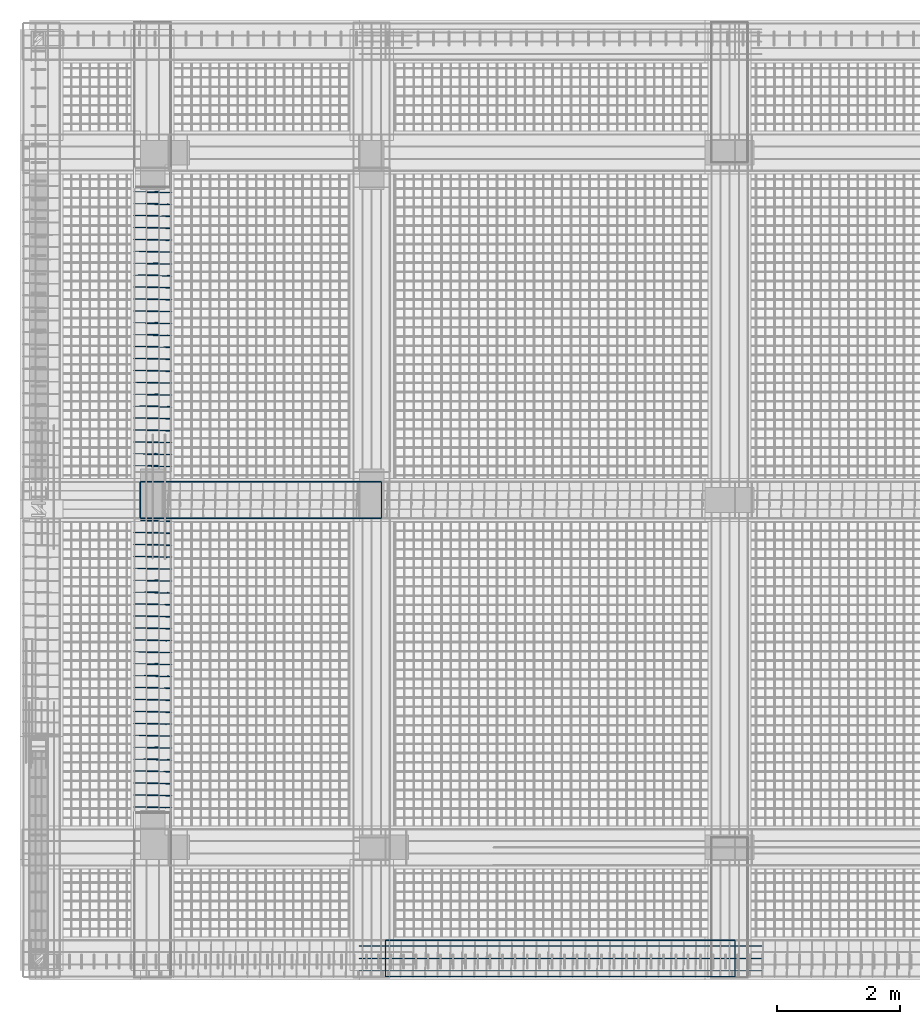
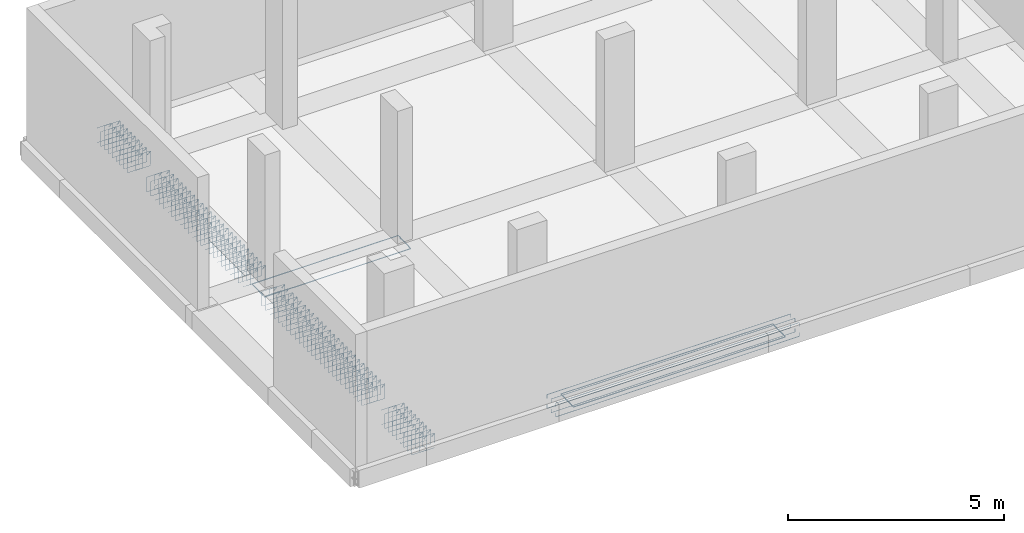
# One storey, part 4 of 9: 4 reinforcing bars.
"""IFC4 building model written with IfcOpenShell, lengths in metres."""

from ifc_helpers import new_model, entity, si_unit, origin_with_axes, place, context, project, spatial, source, transform, mapped, element, save


model = new_model("IFC4")

# Units and contexts
model_context = context("Model", 3, precision=1e-05, world=origin_with_axes())
ifc_project = project(units=[si_unit("LENGTHUNIT", "METRE"), si_unit("AREAUNIT", "SQUARE_METRE"), si_unit("VOLUMEUNIT", "CUBIC_METRE"), si_unit("MASSUNIT", "GRAM", prefix="KILO"), si_unit("TIMEUNIT", "SECOND"), si_unit("PLANEANGLEUNIT", "RADIAN"), si_unit("SOLIDANGLEUNIT", "STERADIAN"), si_unit("THERMODYNAMICTEMPERATUREUNIT", "DEGREE_CELSIUS")], contexts=[model_context])

# Site, building, storey
placement_1 = place(None, origin_with_axes())
site = spatial("IfcSite", under=ifc_project, at=placement_1, Name="Italia", CompositionType="ELEMENT")
building = spatial("IfcBuilding", under=site, at=placement_1, Name="Palazzina", CompositionType="ELEMENT")
storey = spatial("IfcBuildingStorey", under=building, at=placement_1, Name="Storey 0", CompositionType="ELEMENT", Elevation=0.0)

# Reinforcing bars
shared_shape_1 = source(origin_with_axes(), model_context, "Body", "AdvancedSweptSolid", [
    entity("IfcSweptDiskSolid", entity("IfcIndexedPolyCurve", entity("IfcCartesianPointList3D", [[3.54918, -1.6, -0.344], [3.54918, -1.6, -0.434], [3.54994, -1.6, -0.437827], [3.55211, -1.6, -0.441071], [3.55536, -1.6, -0.443239], [3.55918, -1.6, -0.444], [3.975, -1.6, -0.444], [9.64091, -1.6, -0.444], [10.0567, -1.6, -0.444], [10.0606, -1.6, -0.443239], [10.0638, -1.6, -0.441071], [10.066, -1.6, -0.437827], [10.0667, -1.6, -0.434], [10.0667, -1.6, -0.344]]), [entity("IfcLineIndex", [1, 2]), entity("IfcLineIndex", [2, 3]), entity("IfcLineIndex", [3, 4]), entity("IfcLineIndex", [4, 5]), entity("IfcLineIndex", [5, 6]), entity("IfcLineIndex", [6, 7]), entity("IfcLineIndex", [7, 8]), entity("IfcLineIndex", [8, 9]), entity("IfcLineIndex", [9, 10]), entity("IfcLineIndex", [10, 11]), entity("IfcLineIndex", [11, 12]), entity("IfcLineIndex", [12, 13]), entity("IfcLineIndex", [13, 14])], False), 0.008),
])
placement_2 = place(placement_1, origin_with_axes())
reinforcing_bar_1_placement = place(placement_2, origin_with_axes())
element("IfcReinforcingBar", 1, at=reinforcing_bar_1_placement, inside=storey, BarLength=6.70876, CrossSectionArea=0.00020106, NominalDiameter=0.016, context=model_context, shape_type="MappedRepresentation", body=[
    mapped(shared_shape_1, transform((0.0, -3.0, -0.5), x_axis=(1.0, 0.0, 0.0), y_axis=(0.0, -1.0, 0.0), z_axis=(0.0, 0.0, -1.0), scale=1.0)),
    mapped(shared_shape_1, transform((0.0, -3.2, -0.5), x_axis=(1.0, 0.0, 0.0), y_axis=(0.0, -1.0, 0.0), z_axis=(0.0, 0.0, -1.0), scale=1.0)),
    mapped(shared_shape_1, transform((0.0, -3.4, -0.5), x_axis=(1.0, 0.0, 0.0), y_axis=(0.0, -1.0, 0.0), z_axis=(0.0, 0.0, -1.0), scale=1.0)),
    mapped(shared_shape_1, transform((0.0, -3.2, -0.5), x_axis=(1.0, 0.0, 0.0), y_axis=(0.0, -1.0, 0.0), z_axis=(0.0, 0.0, -1.0), scale=1.0)),
    mapped(shared_shape_1, transform((0.0, 0.2, 0.0), x_axis=(1.0, 0.0, 0.0), y_axis=(0.0, 1.0, 0.0), z_axis=(0.0, 0.0, 1.0), scale=1.0)),
    mapped(shared_shape_1, transform((0.0, 0.0, 0.0), x_axis=(1.0, 0.0, 0.0), y_axis=(0.0, 1.0, 0.0), z_axis=(0.0, 0.0, 1.0), scale=1.0)),
    mapped(shared_shape_1, transform((0.0, -0.2, 0.0), x_axis=(1.0, 0.0, 0.0), y_axis=(0.0, 1.0, 0.0), z_axis=(0.0, 0.0, 1.0), scale=1.0)),
    mapped(shared_shape_1, transform((0.0, 0.0, 0.0), x_axis=(1.0, 0.0, 0.0), y_axis=(0.0, 1.0, 0.0), z_axis=(0.0, 0.0, 1.0), scale=1.0)),
])
shared_shape_2 = source(origin_with_axes(), model_context, "Body", "AdvancedSweptSolid", [
    entity("IfcSweptDiskSolid", entity("IfcIndexedPolyCurve", entity("IfcCartesianPointList3D", [[3.975, -1.806, -0.244], [3.975, -1.316, -0.244], [3.97576, -1.31217, -0.244], [3.97793, -1.30893, -0.244], [3.98117, -1.30676, -0.244], [3.985, -1.306, -0.244], [9.63091, -1.306, -0.244], [9.63474, -1.30676, -0.244], [9.63798, -1.30893, -0.244], [9.64015, -1.31217, -0.244], [9.64091, -1.316, -0.244], [9.64091, -1.806, -0.244]]), [entity("IfcLineIndex", [1, 2]), entity("IfcLineIndex", [2, 3]), entity("IfcLineIndex", [3, 4]), entity("IfcLineIndex", [4, 5]), entity("IfcLineIndex", [5, 6]), entity("IfcLineIndex", [6, 7]), entity("IfcLineIndex", [7, 8]), entity("IfcLineIndex", [8, 9]), entity("IfcLineIndex", [9, 10]), entity("IfcLineIndex", [10, 11]), entity("IfcLineIndex", [11, 12])], False), 0.006),
])
reinforcing_bar_2_placement = place(placement_2, origin_with_axes())
element("IfcReinforcingBar", 2, at=reinforcing_bar_2_placement, inside=storey, BarLength=6.65712, CrossSectionArea=0.0001131, NominalDiameter=0.012, context=model_context, shape_type="MappedRepresentation", body=[
    mapped(shared_shape_2, transform((0.0, -3.2, -0.5), x_axis=(1.0, 0.0, 0.0), y_axis=(0.0, -1.0, 0.0), z_axis=(0.0, 0.0, -1.0), scale=1.0)),
    mapped(shared_shape_2, transform((0.0, 0.0, 0.0), x_axis=(1.0, 0.0, 0.0), y_axis=(0.0, 1.0, 0.0), z_axis=(0.0, 0.0, 1.0), scale=1.0)),
])
shared_shape_3 = source(origin_with_axes(), model_context, "Body", "AdvancedSweptSolid", [
    entity("IfcSweptDiskSolid", entity("IfcIndexedPolyCurve", entity("IfcCartesianPointList3D", [[0.0, 5.624, -0.244], [0.0, 6.114, -0.244], [0.000760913, 6.11783, -0.244], [0.00292873, 6.12107, -0.244], [0.0061729, 6.12324, -0.244], [0.00999975, 6.124, -0.244], [3.9, 6.124, -0.244], [3.90383, 6.12324, -0.244], [3.90707, 6.12107, -0.244], [3.90924, 6.11783, -0.244], [3.91, 6.114, -0.244], [3.91, 5.624, -0.244]]), [entity("IfcLineIndex", [1, 2]), entity("IfcLineIndex", [2, 3]), entity("IfcLineIndex", [3, 4]), entity("IfcLineIndex", [4, 5]), entity("IfcLineIndex", [5, 6]), entity("IfcLineIndex", [6, 7]), entity("IfcLineIndex", [7, 8]), entity("IfcLineIndex", [8, 9]), entity("IfcLineIndex", [9, 10]), entity("IfcLineIndex", [10, 11]), entity("IfcLineIndex", [11, 12])], False), 0.006),
])
reinforcing_bar_3_placement = place(placement_2, origin_with_axes())
element("IfcReinforcingBar", 3, at=reinforcing_bar_3_placement, inside=storey, BarLength=4.90121, CrossSectionArea=0.0001131, NominalDiameter=0.012, context=model_context, shape_type="MappedRepresentation", body=[
    mapped(shared_shape_3, transform((0.0, 11.66, -0.5), x_axis=(1.0, 0.0, 0.0), y_axis=(0.0, -1.0, 0.0), z_axis=(0.0, 0.0, -1.0), scale=1.0)),
    mapped(shared_shape_3, transform((0.0, 0.0, 0.0), x_axis=(1.0, 0.0, 0.0), y_axis=(0.0, 1.0, 0.0), z_axis=(0.0, 0.0, 1.0), scale=1.0)),
])
shared_shape_4 = source(origin_with_axes(), model_context, "Body", "AdvancedSweptSolid", [
    entity("IfcSweptDiskSolid", entity("IfcIndexedPolyCurve", entity("IfcCartesianPointList3D", [[0.434289, -1.45, -0.138211], [0.502071, -1.45058, -0.0704289], [0.505, -1.45063, -0.0633579], [0.505, -1.45068, -0.055], [0.504239, -1.4507, -0.0511732], [0.502071, -1.45073, -0.0479289], [0.498827, -1.45075, -0.0457612], [0.495, -1.45077, -0.045], [0.108333, -1.45312, -0.045], [0.104506, -1.45314, -0.0457612], [0.101262, -1.45317, -0.0479289], [0.0990945, -1.45319, -0.0511732], [0.0983333, -1.45321, -0.055], [0.0983333, -1.45558, -0.445], [0.0990945, -1.4556, -0.448827], [0.101262, -1.45563, -0.452071], [0.104506, -1.45565, -0.454239], [0.108333, -1.45568, -0.455], [0.495, -1.45802, -0.455], [0.498827, -1.45805, -0.454239], [0.502071, -1.45807, -0.452071], [0.504239, -1.45809, -0.448827], [0.505, -1.45812, -0.445], [0.505, -1.46048, -0.055], [0.504239, -1.46051, -0.0511732], [0.502071, -1.46053, -0.0479289], [0.498827, -1.46055, -0.0457612], [0.495, -1.46058, -0.045], [0.486642, -1.46063, -0.045], [0.479571, -1.46067, -0.0479289], [0.411789, -1.46126, -0.115711]]), [entity("IfcLineIndex", [1, 2]), entity("IfcLineIndex", [2, 3]), entity("IfcLineIndex", [3, 4]), entity("IfcLineIndex", [4, 5]), entity("IfcLineIndex", [5, 6]), entity("IfcLineIndex", [6, 7]), entity("IfcLineIndex", [7, 8]), entity("IfcLineIndex", [8, 9]), entity("IfcLineIndex", [9, 10]), entity("IfcLineIndex", [10, 11]), entity("IfcLineIndex", [11, 12]), entity("IfcLineIndex", [12, 13]), entity("IfcLineIndex", [13, 14]), entity("IfcLineIndex", [14, 15]), entity("IfcLineIndex", [15, 16]), entity("IfcLineIndex", [16, 17]), entity("IfcLineIndex", [17, 18]), entity("IfcLineIndex", [18, 19]), entity("IfcLineIndex", [19, 20]), entity("IfcLineIndex", [20, 21]), entity("IfcLineIndex", [21, 22]), entity("IfcLineIndex", [22, 23]), entity("IfcLineIndex", [23, 24]), entity("IfcLineIndex", [24, 25]), entity("IfcLineIndex", [25, 26]), entity("IfcLineIndex", [26, 27]), entity("IfcLineIndex", [27, 28]), entity("IfcLineIndex", [28, 29]), entity("IfcLineIndex", [29, 30]), entity("IfcLineIndex", [30, 31])], False), 0.005),
])
reinforcing_bar_4_placement = place(placement_2, origin_with_axes())
element("IfcReinforcingBar", 4, at=reinforcing_bar_4_placement, inside=storey, BarLength=1.85514, CrossSectionArea=7.854e-05, NominalDiameter=0.01, context=model_context, shape_type="MappedRepresentation", body=[
    mapped(shared_shape_4, transform((-0.203245, 8.61221, -8.51452e-05), x_axis=(1.0, -6.05866e-05, 0.0), y_axis=(6.05732e-05, 1.0, -5.8811e-05), z_axis=(0.0, 5.8811e-05, 1.0), scale=1.0)),
    mapped(shared_shape_4, transform((-0.203245, 8.03308, -8.51452e-05), x_axis=(1.0, -6.05866e-05, 0.0), y_axis=(6.05732e-05, 1.0, -5.8811e-05), z_axis=(0.0, 5.8811e-05, 1.0), scale=1.0)),
    mapped(shared_shape_4, transform((-0.203245, 8.99829, -8.51452e-05), x_axis=(1.0, -6.05866e-05, 0.0), y_axis=(6.05732e-05, 1.0, -5.8811e-05), z_axis=(0.0, 5.8811e-05, 1.0), scale=1.0)),
    mapped(shared_shape_4, transform((-0.203245, 9.19134, -8.51452e-05), x_axis=(1.0, -6.05866e-05, 0.0), y_axis=(6.05732e-05, 1.0, -5.8811e-05), z_axis=(0.0, 5.8811e-05, 1.0), scale=1.0)),
    mapped(shared_shape_4, transform((-0.203245, 8.80525, -8.51452e-05), x_axis=(1.0, -6.05866e-05, 0.0), y_axis=(6.05732e-05, 1.0, -5.8811e-05), z_axis=(0.0, 5.8811e-05, 1.0), scale=1.0)),
    mapped(shared_shape_4, transform((-0.203245, 8.41916, -8.51452e-05), x_axis=(1.0, -6.05866e-05, 0.0), y_axis=(6.05732e-05, 1.0, -5.8811e-05), z_axis=(0.0, 5.8811e-05, 1.0), scale=1.0)),
    mapped(shared_shape_4, transform((-0.203245, 6.95003, -8.51452e-05), x_axis=(1.0, -6.05866e-05, 0.0), y_axis=(6.05732e-05, 1.0, -5.8811e-05), z_axis=(0.0, 5.8811e-05, 1.0), scale=1.0)),
    mapped(shared_shape_4, transform((-0.203413, 14.2275, 8.13007e-05), x_axis=(1.0, 5.45182e-05, 0.0), y_axis=(-5.45362e-05, 1.0, 5.62894e-05), z_axis=(0.0, -5.62895e-05, 1.0), scale=1.0)),
    mapped(shared_shape_4, transform((-0.203245, 8.22612, -8.51452e-05), x_axis=(1.0, -6.05866e-05, 0.0), y_axis=(6.05732e-05, 1.0, -5.8811e-05), z_axis=(0.0, 5.8811e-05, 1.0), scale=1.0)),
    mapped(shared_shape_4, transform((-0.203413, 10.3495, 8.13007e-05), x_axis=(1.0, 5.45182e-05, 0.0), y_axis=(-5.45362e-05, 1.0, 5.62894e-05), z_axis=(0.0, -5.62895e-05, 1.0), scale=1.0)),
    mapped(shared_shape_4, transform((-0.203413, 13.3462, 8.13007e-05), x_axis=(1.0, 5.45182e-05, 0.0), y_axis=(-5.45362e-05, 1.0, 5.62894e-05), z_axis=(0.0, -5.62895e-05, 1.0), scale=1.0)),
    mapped(shared_shape_4, transform((-0.203413, 14.4037, 8.13007e-05), x_axis=(1.0, 5.45182e-05, 0.0), y_axis=(-5.45362e-05, 1.0, 5.62894e-05), z_axis=(0.0, -5.62895e-05, 1.0), scale=1.0)),
    mapped(shared_shape_4, transform((-0.203413, 14.0512, 8.13007e-05), x_axis=(1.0, 5.45182e-05, 0.0), y_axis=(-5.45362e-05, 1.0, 5.62894e-05), z_axis=(0.0, -5.62895e-05, 1.0), scale=1.0)),
    mapped(shared_shape_4, transform((-0.203333, 0.18625, 0.0), x_axis=(1.0, 0.0, 0.0), y_axis=(0.0, 1.0, 0.0), z_axis=(0.0, 0.0, 1.0), scale=1.0)),
    mapped(shared_shape_4, transform((-0.203413, 10.1565, 8.13007e-05), x_axis=(1.0, 5.45182e-05, 0.0), y_axis=(-5.45362e-05, 1.0, 5.62894e-05), z_axis=(0.0, -5.62895e-05, 1.0), scale=1.0)),
    mapped(shared_shape_4, transform((-0.203413, 9.57736, 8.13007e-05), x_axis=(1.0, 5.45182e-05, 0.0), y_axis=(-5.45362e-05, 1.0, 5.62894e-05), z_axis=(0.0, -5.62895e-05, 1.0), scale=1.0)),
    mapped(shared_shape_4, transform((-0.203245, 7.84003, -8.51452e-05), x_axis=(1.0, -6.05866e-05, 0.0), y_axis=(6.05732e-05, 1.0, -5.8811e-05), z_axis=(0.0, 5.8811e-05, 1.0), scale=1.0)),
    mapped(shared_shape_4, transform((-0.203413, 10.9287, 8.13007e-05), x_axis=(1.0, 5.45182e-05, 0.0), y_axis=(-5.45362e-05, 1.0, 5.62894e-05), z_axis=(0.0, -5.62895e-05, 1.0), scale=1.0)),
    mapped(shared_shape_4, transform((-0.203413, 10.7356, 8.13007e-05), x_axis=(1.0, 5.45182e-05, 0.0), y_axis=(-5.45362e-05, 1.0, 5.62894e-05), z_axis=(0.0, -5.62895e-05, 1.0), scale=1.0)),
    mapped(shared_shape_4, transform((-0.203413, 10.5426, 8.13007e-05), x_axis=(1.0, 5.45182e-05, 0.0), y_axis=(-5.45362e-05, 1.0, 5.62894e-05), z_axis=(0.0, -5.62895e-05, 1.0), scale=1.0)),
    mapped(shared_shape_4, transform((-0.203413, 13.875, 8.13007e-05), x_axis=(1.0, 5.45182e-05, 0.0), y_axis=(-5.45362e-05, 1.0, 5.62894e-05), z_axis=(0.0, -5.62895e-05, 1.0), scale=1.0)),
    mapped(shared_shape_4, transform((-0.203413, 13.6987, 8.13007e-05), x_axis=(1.0, 5.45182e-05, 0.0), y_axis=(-5.45362e-05, 1.0, 5.62894e-05), z_axis=(0.0, -5.62895e-05, 1.0), scale=1.0)),
    mapped(shared_shape_4, transform((-0.203413, 9.96345, 8.13007e-05), x_axis=(1.0, 5.45182e-05, 0.0), y_axis=(-5.45362e-05, 1.0, 5.62894e-05), z_axis=(0.0, -5.62895e-05, 1.0), scale=1.0)),
    mapped(shared_shape_4, transform((-0.203413, 11.3148, 8.13007e-05), x_axis=(1.0, 5.45182e-05, 0.0), y_axis=(-5.45362e-05, 1.0, 5.62894e-05), z_axis=(0.0, -5.62895e-05, 1.0), scale=1.0)),
    mapped(shared_shape_4, transform((-0.203245, 9.38438, -8.51452e-05), x_axis=(1.0, -6.05866e-05, 0.0), y_axis=(6.05732e-05, 1.0, -5.8811e-05), z_axis=(0.0, 5.8811e-05, 1.0), scale=1.0)),
    mapped(shared_shape_4, transform((-0.203413, 13.5225, 8.13007e-05), x_axis=(1.0, 5.45182e-05, 0.0), y_axis=(-5.45362e-05, 1.0, 5.62894e-05), z_axis=(0.0, -5.62895e-05, 1.0), scale=1.0)),
    mapped(shared_shape_4, transform((-0.203329, 4.43667, 0.0), x_axis=(1.0, 0.0, 0.0), y_axis=(0.0, 1.0, 0.0), z_axis=(0.0, 0.0, 1.0), scale=1.0)),
    mapped(shared_shape_4, transform((-0.203329, 4.63, 0.0), x_axis=(1.0, 0.0, 0.0), y_axis=(0.0, 1.0, 0.0), z_axis=(0.0, 0.0, 1.0), scale=1.0)),
    mapped(shared_shape_4, transform((-0.203413, 9.7704, 8.13007e-05), x_axis=(1.0, 5.45182e-05, 0.0), y_axis=(-5.45362e-05, 1.0, 5.62894e-05), z_axis=(0.0, -5.62895e-05, 1.0), scale=1.0)),
    mapped(shared_shape_4, transform((-0.203329, 4.24334, 0.0), x_axis=(1.0, 0.0, 0.0), y_axis=(0.0, 1.0, 0.0), z_axis=(0.0, 0.0, 1.0), scale=1.0)),
    mapped(shared_shape_4, transform((-0.203413, 11.1217, 8.13007e-05), x_axis=(1.0, 5.45182e-05, 0.0), y_axis=(-5.45362e-05, 1.0, 5.62894e-05), z_axis=(0.0, -5.62895e-05, 1.0), scale=1.0)),
    mapped(shared_shape_4, transform((-0.203333, 0.3625, 0.0), x_axis=(1.0, 0.0, 0.0), y_axis=(0.0, 1.0, 0.0), z_axis=(0.0, 0.0, 1.0), scale=1.0)),
    mapped(shared_shape_4, transform((-0.203333, 0.00999999, 0.0), x_axis=(1.0, 0.0, 0.0), y_axis=(0.0, 1.0, 0.0), z_axis=(0.0, 0.0, 1.0), scale=1.0)),
    mapped(shared_shape_4, transform((0.0, 0.17625, 0.0), x_axis=(1.0, 0.0, 0.0), y_axis=(0.0, 1.0, 0.0), z_axis=(0.0, 0.0, 1.0), scale=1.0)),
    mapped(shared_shape_4, transform((-0.203312, 1.24376, -2.0951e-05), x_axis=(1.0, -1.44091e-05, 0.0), y_axis=(1.43858e-05, 1.0, -1.44019e-05), z_axis=(0.0, 1.44019e-05, 1.0), scale=1.0)),
    mapped(shared_shape_4, transform((-0.203329, 4.05, 0.0), x_axis=(1.0, 0.0, 0.0), y_axis=(0.0, 1.0, 0.0), z_axis=(0.0, 0.0, 1.0), scale=1.0)),
    mapped(shared_shape_4, transform((-0.203413, 13.17, 8.13007e-05), x_axis=(1.0, 5.45182e-05, 0.0), y_axis=(-5.45362e-05, 1.0, 5.62894e-05), z_axis=(0.0, -5.62895e-05, 1.0), scale=1.0)),
    mapped(shared_shape_4, transform((-0.203312, 0.891258, -2.0951e-05), x_axis=(1.0, -1.44091e-05, 0.0), y_axis=(1.43858e-05, 1.0, -1.44019e-05), z_axis=(0.0, 1.44019e-05, 1.0), scale=1.0)),
    mapped(shared_shape_4, transform((-0.203312, 1.06751, -2.0951e-05), x_axis=(1.0, -1.44091e-05, 0.0), y_axis=(1.43858e-05, 1.0, -1.44019e-05), z_axis=(0.0, 1.44019e-05, 1.0), scale=1.0)),
    mapped(shared_shape_4, transform((0.0, 0.0, 0.0), x_axis=(1.0, 0.0, 0.0), y_axis=(0.0, 1.0, 0.0), z_axis=(0.0, 0.0, 1.0), scale=1.0)),
    mapped(shared_shape_4, transform((-0.203312, 0.538758, -2.0951e-05), x_axis=(1.0, -1.44091e-05, 0.0), y_axis=(1.43858e-05, 1.0, -1.44019e-05), z_axis=(0.0, 1.44019e-05, 1.0), scale=1.0)),
    mapped(shared_shape_4, transform((2.08616e-05, 0.705008, -2.07871e-05), x_axis=(1.0, -1.43896e-05, 0.0), y_axis=(1.43721e-05, 1.0, -1.43788e-05), z_axis=(0.0, 1.43788e-05, 1.0), scale=1.0)),
    mapped(shared_shape_4, transform((-0.203413, 14.58, 8.13007e-05), x_axis=(1.0, 5.45182e-05, 0.0), y_axis=(-5.45362e-05, 1.0, 5.62894e-05), z_axis=(0.0, -5.62895e-05, 1.0), scale=1.0)),
    mapped(shared_shape_4, transform((-0.203312, 0.715008, -2.0951e-05), x_axis=(1.0, -1.44091e-05, 0.0), y_axis=(1.43858e-05, 1.0, -1.44019e-05), z_axis=(0.0, 1.44019e-05, 1.0), scale=1.0)),
    mapped(shared_shape_4, transform((2.08616e-05, 1.41001, -2.07871e-05), x_axis=(1.0, -1.43896e-05, 0.0), y_axis=(1.43721e-05, 1.0, -1.43788e-05), z_axis=(0.0, 1.43788e-05, 1.0), scale=1.0)),
    mapped(shared_shape_4, transform((2.08616e-05, 1.23376, -2.07871e-05), x_axis=(1.0, -1.43896e-05, 0.0), y_axis=(1.43721e-05, 1.0, -1.43788e-05), z_axis=(0.0, 1.43788e-05, 1.0), scale=1.0)),
    mapped(shared_shape_4, transform((0.0, 1.0575, 0.0), x_axis=(1.0, 0.0, 0.0), y_axis=(0.0, 1.0, 0.0), z_axis=(0.0, 0.0, 1.0), scale=1.0)),
    mapped(shared_shape_4, transform((2.08616e-05, 0.881258, -2.07871e-05), x_axis=(1.0, -1.43896e-05, 0.0), y_axis=(1.43721e-05, 1.0, -1.43788e-05), z_axis=(0.0, 1.43788e-05, 1.0), scale=1.0)),
    mapped(shared_shape_4, transform((-0.203413, 11.5078, 8.13007e-05), x_axis=(1.0, 5.45182e-05, 0.0), y_axis=(-5.45362e-05, 1.0, 5.62894e-05), z_axis=(0.0, -5.62895e-05, 1.0), scale=1.0)),
    mapped(shared_shape_4, transform((-0.203413, 11.7008, 8.13007e-05), x_axis=(1.0, 5.45182e-05, 0.0), y_axis=(-5.45362e-05, 1.0, 5.62894e-05), z_axis=(0.0, -5.62895e-05, 1.0), scale=1.0)),
    mapped(shared_shape_4, transform((-0.203413, 11.8939, 8.13007e-05), x_axis=(1.0, 5.45182e-05, 0.0), y_axis=(-5.45362e-05, 1.0, 5.62894e-05), z_axis=(0.0, -5.62895e-05, 1.0), scale=1.0)),
    mapped(shared_shape_4, transform((-0.203329, 5.40334, 0.0), x_axis=(1.0, 0.0, 0.0), y_axis=(0.0, 1.0, 0.0), z_axis=(0.0, 0.0, 1.0), scale=1.0)),
    mapped(shared_shape_4, transform((-0.203329, 4.82334, 0.0), x_axis=(1.0, 0.0, 0.0), y_axis=(0.0, 1.0, 0.0), z_axis=(0.0, 0.0, 1.0), scale=1.0)),
    mapped(shared_shape_4, transform((-0.203329, 5.01667, 0.0), x_axis=(1.0, 0.0, 0.0), y_axis=(0.0, 1.0, 0.0), z_axis=(0.0, 0.0, 1.0), scale=1.0)),
    mapped(shared_shape_4, transform((-0.203312, 1.42001, -2.0951e-05), x_axis=(1.0, -1.44091e-05, 0.0), y_axis=(1.43858e-05, 1.0, -1.44019e-05), z_axis=(0.0, 1.44019e-05, 1.0), scale=1.0)),
    mapped(shared_shape_4, transform((2.08616e-05, 2.30001, -2.07871e-05), x_axis=(1.0, -1.43896e-05, 0.0), y_axis=(1.43721e-05, 1.0, -1.43788e-05), z_axis=(0.0, 1.43788e-05, 1.0), scale=1.0)),
    mapped(shared_shape_4, transform((-0.203413, 12.0869, 8.13007e-05), x_axis=(1.0, 5.45182e-05, 0.0), y_axis=(-5.45362e-05, 1.0, 5.62894e-05), z_axis=(0.0, -5.62895e-05, 1.0), scale=1.0)),
    mapped(shared_shape_4, transform((-0.203413, 12.28, 8.13007e-05), x_axis=(1.0, 5.45182e-05, 0.0), y_axis=(-5.45362e-05, 1.0, 5.62894e-05), z_axis=(0.0, -5.62895e-05, 1.0), scale=1.0)),
    mapped(shared_shape_4, transform((2.08616e-05, 0.528758, -2.07871e-05), x_axis=(1.0, -1.43896e-05, 0.0), y_axis=(1.43721e-05, 1.0, -1.43788e-05), z_axis=(0.0, 1.43788e-05, 1.0), scale=1.0)),
    mapped(shared_shape_4, transform((-0.203312, 2.31001, -2.0951e-05), x_axis=(1.0, -1.44091e-05, 0.0), y_axis=(1.43858e-05, 1.0, -1.44019e-05), z_axis=(0.0, 1.44019e-05, 1.0), scale=1.0)),
    mapped(shared_shape_4, transform((0.0, 2.49333, 0.0), x_axis=(1.0, 0.0, 0.0), y_axis=(0.0, 1.0, 0.0), z_axis=(0.0, 0.0, 1.0), scale=1.0)),
    mapped(shared_shape_4, transform((0.0, 3.46, 0.0), x_axis=(1.0, 0.0, 0.0), y_axis=(0.0, 1.0, 0.0), z_axis=(0.0, 0.0, 1.0), scale=1.0)),
    mapped(shared_shape_4, transform((-0.203329, 3.47, 0.0), x_axis=(1.0, 0.0, 0.0), y_axis=(0.0, 1.0, 0.0), z_axis=(0.0, 0.0, 1.0), scale=1.0)),
    mapped(shared_shape_4, transform((0.0, 3.65334, 0.0), x_axis=(1.0, 0.0, 0.0), y_axis=(0.0, 1.0, 0.0), z_axis=(0.0, 0.0, 1.0), scale=1.0)),
    mapped(shared_shape_4, transform((-0.203329, 3.66334, 0.0), x_axis=(1.0, 0.0, 0.0), y_axis=(0.0, 1.0, 0.0), z_axis=(0.0, 0.0, 1.0), scale=1.0)),
    mapped(shared_shape_4, transform((0.0, 3.84667, 0.0), x_axis=(1.0, 0.0, 0.0), y_axis=(0.0, 1.0, 0.0), z_axis=(0.0, 0.0, 1.0), scale=1.0)),
    mapped(shared_shape_4, transform((-0.203245, 5.5967, -8.51452e-05), x_axis=(1.0, -6.05866e-05, 0.0), y_axis=(6.05732e-05, 1.0, -5.8811e-05), z_axis=(0.0, 5.8811e-05, 1.0), scale=1.0)),
    mapped(shared_shape_4, transform((8.78572e-05, 5.78004, -8.50111e-05), x_axis=(1.0, -6.05576e-05, 0.0), y_axis=(6.0546e-05, 1.0, -5.87823e-05), z_axis=(0.0, 5.87822e-05, 1.0), scale=1.0)),
    mapped(shared_shape_4, transform((-0.203329, 5.21, 0.0), x_axis=(1.0, 0.0, 0.0), y_axis=(0.0, 1.0, 0.0), z_axis=(0.0, 0.0, 1.0), scale=1.0)),
    mapped(shared_shape_4, transform((-0.203245, 5.98337, -8.51452e-05), x_axis=(1.0, -6.05866e-05, 0.0), y_axis=(6.05732e-05, 1.0, -5.8811e-05), z_axis=(0.0, 5.8811e-05, 1.0), scale=1.0)),
    mapped(shared_shape_4, transform((-0.203245, 6.1767, -8.51452e-05), x_axis=(1.0, -6.05866e-05, 0.0), y_axis=(6.05732e-05, 1.0, -5.8811e-05), z_axis=(0.0, 5.8811e-05, 1.0), scale=1.0)),
    mapped(shared_shape_4, transform((0.0, 0.3525, 0.0), x_axis=(1.0, 0.0, 0.0), y_axis=(0.0, 1.0, 0.0), z_axis=(0.0, 0.0, 1.0), scale=1.0)),
    mapped(shared_shape_4, transform((-0.203245, 6.37003, -8.51452e-05), x_axis=(1.0, -6.05866e-05, 0.0), y_axis=(6.05732e-05, 1.0, -5.8811e-05), z_axis=(0.0, 5.8811e-05, 1.0), scale=1.0)),
    mapped(shared_shape_4, transform((-0.203245, 5.79003, -8.51452e-05), x_axis=(1.0, -6.05866e-05, 0.0), y_axis=(6.05732e-05, 1.0, -5.8811e-05), z_axis=(0.0, 5.8811e-05, 1.0), scale=1.0)),
    mapped(shared_shape_4, transform((8.78572e-05, 6.55337, -8.50111e-05), x_axis=(1.0, -6.05576e-05, 0.0), y_axis=(6.0546e-05, 1.0, -5.87823e-05), z_axis=(0.0, 5.87822e-05, 1.0), scale=1.0)),
    mapped(shared_shape_4, transform((8.78572e-05, 6.1667, -8.50111e-05), x_axis=(1.0, -6.05576e-05, 0.0), y_axis=(6.0546e-05, 1.0, -5.87823e-05), z_axis=(0.0, 5.87822e-05, 1.0), scale=1.0)),
    mapped(shared_shape_4, transform((8.78572e-05, 6.36003, -8.50111e-05), x_axis=(1.0, -6.05576e-05, 0.0), y_axis=(6.0546e-05, 1.0, -5.87823e-05), z_axis=(0.0, 5.87822e-05, 1.0), scale=1.0)),
    mapped(shared_shape_4, transform((8.78572e-05, 5.97337, -8.50111e-05), x_axis=(1.0, -6.05576e-05, 0.0), y_axis=(6.0546e-05, 1.0, -5.87823e-05), z_axis=(0.0, 5.87822e-05, 1.0), scale=1.0)),
    mapped(shared_shape_4, transform((-0.203333, 2.50333, 0.0), x_axis=(1.0, 0.0, 0.0), y_axis=(0.0, 1.0, 0.0), z_axis=(0.0, 0.0, 1.0), scale=1.0)),
    mapped(shared_shape_4, transform((0.0, 2.68667, 0.0), x_axis=(1.0, 0.0, 0.0), y_axis=(0.0, 1.0, 0.0), z_axis=(0.0, 0.0, 1.0), scale=1.0)),
    mapped(shared_shape_4, transform((-0.203245, 6.7567, -8.51452e-05), x_axis=(1.0, -6.05866e-05, 0.0), y_axis=(6.05732e-05, 1.0, -5.8811e-05), z_axis=(0.0, 5.8811e-05, 1.0), scale=1.0)),
    mapped(shared_shape_4, transform((-0.203329, 3.85667, 0.0), x_axis=(1.0, 0.0, 0.0), y_axis=(0.0, 1.0, 0.0), z_axis=(0.0, 0.0, 1.0), scale=1.0)),
    mapped(shared_shape_4, transform((0.0, 4.62, 0.0), x_axis=(1.0, 0.0, 0.0), y_axis=(0.0, 1.0, 0.0), z_axis=(0.0, 0.0, 1.0), scale=1.0)),
    mapped(shared_shape_4, transform((0.0, 5.2, 0.0), x_axis=(1.0, 0.0, 0.0), y_axis=(0.0, 1.0, 0.0), z_axis=(0.0, 0.0, 1.0), scale=1.0)),
    mapped(shared_shape_4, transform((0.0, 4.81334, 0.0), x_axis=(1.0, 0.0, 0.0), y_axis=(0.0, 1.0, 0.0), z_axis=(0.0, 0.0, 1.0), scale=1.0)),
    mapped(shared_shape_4, transform((0.0, 5.39334, 0.0), x_axis=(1.0, 0.0, 0.0), y_axis=(0.0, 1.0, 0.0), z_axis=(0.0, 0.0, 1.0), scale=1.0)),
    mapped(shared_shape_4, transform((0.0, 5.00667, 0.0), x_axis=(1.0, 0.0, 0.0), y_axis=(0.0, 1.0, 0.0), z_axis=(0.0, 0.0, 1.0), scale=1.0)),
    mapped(shared_shape_4, transform((0.0, 4.42667, 0.0), x_axis=(1.0, 0.0, 0.0), y_axis=(0.0, 1.0, 0.0), z_axis=(0.0, 0.0, 1.0), scale=1.0)),
    mapped(shared_shape_4, transform((0.0, 4.23334, 0.0), x_axis=(1.0, 0.0, 0.0), y_axis=(0.0, 1.0, 0.0), z_axis=(0.0, 0.0, 1.0), scale=1.0)),
    mapped(shared_shape_4, transform((0.0, 4.04, 0.0), x_axis=(1.0, 0.0, 0.0), y_axis=(0.0, 1.0, 0.0), z_axis=(0.0, 0.0, 1.0), scale=1.0)),
    mapped(shared_shape_4, transform((-0.203333, 3.08333, 0.0), x_axis=(1.0, 0.0, 0.0), y_axis=(0.0, 1.0, 0.0), z_axis=(0.0, 0.0, 1.0), scale=1.0)),
    mapped(shared_shape_4, transform((-0.203333, 3.27667, 0.0), x_axis=(1.0, 0.0, 0.0), y_axis=(0.0, 1.0, 0.0), z_axis=(0.0, 0.0, 1.0), scale=1.0)),
    mapped(shared_shape_4, transform((-0.203333, 2.69667, 0.0), x_axis=(1.0, 0.0, 0.0), y_axis=(0.0, 1.0, 0.0), z_axis=(0.0, 0.0, 1.0), scale=1.0)),
    mapped(shared_shape_4, transform((0.0, 2.88, 0.0), x_axis=(1.0, 0.0, 0.0), y_axis=(0.0, 1.0, 0.0), z_axis=(0.0, 0.0, 1.0), scale=1.0)),
    mapped(shared_shape_4, transform((-0.203245, 6.56337, -8.51452e-05), x_axis=(1.0, -6.05866e-05, 0.0), y_axis=(6.05732e-05, 1.0, -5.8811e-05), z_axis=(0.0, 5.8811e-05, 1.0), scale=1.0)),
    mapped(shared_shape_4, transform((8.78572e-05, 8.40916, -8.50111e-05), x_axis=(1.0, -6.05576e-05, 0.0), y_axis=(6.0546e-05, 1.0, -5.87823e-05), z_axis=(0.0, 5.87822e-05, 1.0), scale=1.0)),
    mapped(shared_shape_4, transform((8.78572e-05, 8.9883, -8.50111e-05), x_axis=(1.0, -6.05576e-05, 0.0), y_axis=(6.0546e-05, 1.0, -5.87823e-05), z_axis=(0.0, 5.87822e-05, 1.0), scale=1.0)),
    mapped(shared_shape_4, transform((8.78572e-05, 9.18134, -8.50111e-05), x_axis=(1.0, -6.05576e-05, 0.0), y_axis=(6.0546e-05, 1.0, -5.87823e-05), z_axis=(0.0, 5.87822e-05, 1.0), scale=1.0)),
    mapped(shared_shape_4, transform((8.78572e-05, 8.79525, -8.50111e-05), x_axis=(1.0, -6.05576e-05, 0.0), y_axis=(6.0546e-05, 1.0, -5.87823e-05), z_axis=(0.0, 5.87822e-05, 1.0), scale=1.0)),
    mapped(shared_shape_4, transform((8.78572e-05, 9.37438, -8.50111e-05), x_axis=(1.0, -6.05576e-05, 0.0), y_axis=(6.0546e-05, 1.0, -5.87823e-05), z_axis=(0.0, 5.87822e-05, 1.0), scale=1.0)),
    mapped(shared_shape_4, transform((8.78572e-05, 8.21612, -8.50111e-05), x_axis=(1.0, -6.05576e-05, 0.0), y_axis=(6.0546e-05, 1.0, -5.87823e-05), z_axis=(0.0, 5.87822e-05, 1.0), scale=1.0)),
    mapped(shared_shape_4, transform((8.78572e-05, 8.60221, -8.50111e-05), x_axis=(1.0, -6.05576e-05, 0.0), y_axis=(6.0546e-05, 1.0, -5.87823e-05), z_axis=(0.0, 5.87822e-05, 1.0), scale=1.0)),
    mapped(shared_shape_4, transform((8.78572e-05, 8.02308, -8.50111e-05), x_axis=(1.0, -6.05576e-05, 0.0), y_axis=(6.0546e-05, 1.0, -5.87823e-05), z_axis=(0.0, 5.87822e-05, 1.0), scale=1.0)),
    mapped(shared_shape_4, transform((8.78572e-05, 6.94003, -8.50111e-05), x_axis=(1.0, -6.05576e-05, 0.0), y_axis=(6.0546e-05, 1.0, -5.87823e-05), z_axis=(0.0, 5.87822e-05, 1.0), scale=1.0)),
    mapped(shared_shape_4, transform((8.78572e-05, 7.83003, -8.50111e-05), x_axis=(1.0, -6.05576e-05, 0.0), y_axis=(6.0546e-05, 1.0, -5.87823e-05), z_axis=(0.0, 5.87822e-05, 1.0), scale=1.0)),
    mapped(shared_shape_4, transform((8.78572e-05, 6.7467, -8.50111e-05), x_axis=(1.0, -6.05576e-05, 0.0), y_axis=(6.0546e-05, 1.0, -5.87823e-05), z_axis=(0.0, 5.87822e-05, 1.0), scale=1.0)),
    mapped(shared_shape_4, transform((8.78572e-05, 5.5867, -8.50111e-05), x_axis=(1.0, -6.05576e-05, 0.0), y_axis=(6.0546e-05, 1.0, -5.87823e-05), z_axis=(0.0, 5.87822e-05, 1.0), scale=1.0)),
    mapped(shared_shape_4, transform((-0.203333, 2.89, 0.0), x_axis=(1.0, 0.0, 0.0), y_axis=(0.0, 1.0, 0.0), z_axis=(0.0, 0.0, 1.0), scale=1.0)),
    mapped(shared_shape_4, transform((-7.91848e-05, 10.7256, 8.14497e-05), x_axis=(1.0, 5.45622e-05, 0.0), y_axis=(-5.4579e-05, 1.0, 5.63331e-05), z_axis=(0.0, -5.63331e-05, 1.0), scale=1.0)),
    mapped(shared_shape_4, transform((-7.91848e-05, 10.5326, 8.14497e-05), x_axis=(1.0, 5.45622e-05, 0.0), y_axis=(-5.4579e-05, 1.0, 5.63331e-05), z_axis=(0.0, -5.63331e-05, 1.0), scale=1.0)),
    mapped(shared_shape_4, transform((-7.91848e-05, 12.0769, 8.14497e-05), x_axis=(1.0, 5.45622e-05, 0.0), y_axis=(-5.4579e-05, 1.0, 5.63331e-05), z_axis=(0.0, -5.63331e-05, 1.0), scale=1.0)),
    mapped(shared_shape_4, transform((-7.91848e-05, 11.6908, 8.14497e-05), x_axis=(1.0, 5.45622e-05, 0.0), y_axis=(-5.4579e-05, 1.0, 5.63331e-05), z_axis=(0.0, -5.63331e-05, 1.0), scale=1.0)),
    mapped(shared_shape_4, transform((-7.91848e-05, 13.16, 8.14497e-05), x_axis=(1.0, 5.45622e-05, 0.0), y_axis=(-5.4579e-05, 1.0, 5.63331e-05), z_axis=(0.0, -5.63331e-05, 1.0), scale=1.0)),
    mapped(shared_shape_4, transform((-7.91848e-05, 10.3395, 8.14497e-05), x_axis=(1.0, 5.45622e-05, 0.0), y_axis=(-5.4579e-05, 1.0, 5.63331e-05), z_axis=(0.0, -5.63331e-05, 1.0), scale=1.0)),
    mapped(shared_shape_4, transform((-7.91848e-05, 11.4978, 8.14497e-05), x_axis=(1.0, 5.45622e-05, 0.0), y_axis=(-5.4579e-05, 1.0, 5.63331e-05), z_axis=(0.0, -5.63331e-05, 1.0), scale=1.0)),
    mapped(shared_shape_4, transform((-7.91848e-05, 10.9187, 8.14497e-05), x_axis=(1.0, 5.45622e-05, 0.0), y_axis=(-5.4579e-05, 1.0, 5.63331e-05), z_axis=(0.0, -5.63331e-05, 1.0), scale=1.0)),
    mapped(shared_shape_4, transform((-7.91848e-05, 11.8839, 8.14497e-05), x_axis=(1.0, 5.45622e-05, 0.0), y_axis=(-5.4579e-05, 1.0, 5.63331e-05), z_axis=(0.0, -5.63331e-05, 1.0), scale=1.0)),
    mapped(shared_shape_4, transform((-7.91848e-05, 11.3048, 8.14497e-05), x_axis=(1.0, 5.45622e-05, 0.0), y_axis=(-5.4579e-05, 1.0, 5.63331e-05), z_axis=(0.0, -5.63331e-05, 1.0), scale=1.0)),
    mapped(shared_shape_4, transform((-7.91848e-05, 13.3362, 8.14497e-05), x_axis=(1.0, 5.45622e-05, 0.0), y_axis=(-5.4579e-05, 1.0, 5.63331e-05), z_axis=(0.0, -5.63331e-05, 1.0), scale=1.0)),
    mapped(shared_shape_4, transform((-7.91848e-05, 14.0412, 8.14497e-05), x_axis=(1.0, 5.45622e-05, 0.0), y_axis=(-5.4579e-05, 1.0, 5.63331e-05), z_axis=(0.0, -5.63331e-05, 1.0), scale=1.0)),
    mapped(shared_shape_4, transform((-7.91848e-05, 11.1117, 8.14497e-05), x_axis=(1.0, 5.45622e-05, 0.0), y_axis=(-5.4579e-05, 1.0, 5.63331e-05), z_axis=(0.0, -5.63331e-05, 1.0), scale=1.0)),
    mapped(shared_shape_4, transform((-7.91848e-05, 14.3937, 8.14497e-05), x_axis=(1.0, 5.45622e-05, 0.0), y_axis=(-5.4579e-05, 1.0, 5.63331e-05), z_axis=(0.0, -5.63331e-05, 1.0), scale=1.0)),
    mapped(shared_shape_4, transform((-7.91848e-05, 13.865, 8.14497e-05), x_axis=(1.0, 5.45622e-05, 0.0), y_axis=(-5.4579e-05, 1.0, 5.63331e-05), z_axis=(0.0, -5.63331e-05, 1.0), scale=1.0)),
    mapped(shared_shape_4, transform((-7.91848e-05, 14.2175, 8.14497e-05), x_axis=(1.0, 5.45622e-05, 0.0), y_axis=(-5.4579e-05, 1.0, 5.63331e-05), z_axis=(0.0, -5.63331e-05, 1.0), scale=1.0)),
    mapped(shared_shape_4, transform((-7.91848e-05, 13.6887, 8.14497e-05), x_axis=(1.0, 5.45622e-05, 0.0), y_axis=(-5.4579e-05, 1.0, 5.63331e-05), z_axis=(0.0, -5.63331e-05, 1.0), scale=1.0)),
    mapped(shared_shape_4, transform((-7.91848e-05, 12.27, 8.14497e-05), x_axis=(1.0, 5.45622e-05, 0.0), y_axis=(-5.4579e-05, 1.0, 5.63331e-05), z_axis=(0.0, -5.63331e-05, 1.0), scale=1.0)),
    mapped(shared_shape_4, transform((-7.91848e-05, 9.95345, 8.14497e-05), x_axis=(1.0, 5.45622e-05, 0.0), y_axis=(-5.4579e-05, 1.0, 5.63331e-05), z_axis=(0.0, -5.63331e-05, 1.0), scale=1.0)),
    mapped(shared_shape_4, transform((-7.91848e-05, 13.5125, 8.14497e-05), x_axis=(1.0, 5.45622e-05, 0.0), y_axis=(-5.4579e-05, 1.0, 5.63331e-05), z_axis=(0.0, -5.63331e-05, 1.0), scale=1.0)),
    mapped(shared_shape_4, transform((-7.91848e-05, 9.56736, 8.14497e-05), x_axis=(1.0, 5.45622e-05, 0.0), y_axis=(-5.4579e-05, 1.0, 5.63331e-05), z_axis=(0.0, -5.63331e-05, 1.0), scale=1.0)),
    mapped(shared_shape_4, transform((-7.91848e-05, 9.7604, 8.14497e-05), x_axis=(1.0, 5.45622e-05, 0.0), y_axis=(-5.4579e-05, 1.0, 5.63331e-05), z_axis=(0.0, -5.63331e-05, 1.0), scale=1.0)),
    mapped(shared_shape_4, transform((-7.91848e-05, 14.57, 8.14497e-05), x_axis=(1.0, 5.45622e-05, 0.0), y_axis=(-5.4579e-05, 1.0, 5.63331e-05), z_axis=(0.0, -5.63331e-05, 1.0), scale=1.0)),
    mapped(shared_shape_4, transform((-7.91848e-05, 10.1465, 8.14497e-05), x_axis=(1.0, 5.45622e-05, 0.0), y_axis=(-5.4579e-05, 1.0, 5.63331e-05), z_axis=(0.0, -5.63331e-05, 1.0), scale=1.0)),
    mapped(shared_shape_4, transform((0.0, 3.07333, 0.0), x_axis=(1.0, 0.0, 0.0), y_axis=(0.0, 1.0, 0.0), z_axis=(0.0, 0.0, 1.0), scale=1.0)),
    mapped(shared_shape_4, transform((0.0, 3.26667, 0.0), x_axis=(1.0, 0.0, 0.0), y_axis=(0.0, 1.0, 0.0), z_axis=(0.0, 0.0, 1.0), scale=1.0)),
])

save(model, "model.ifc")
